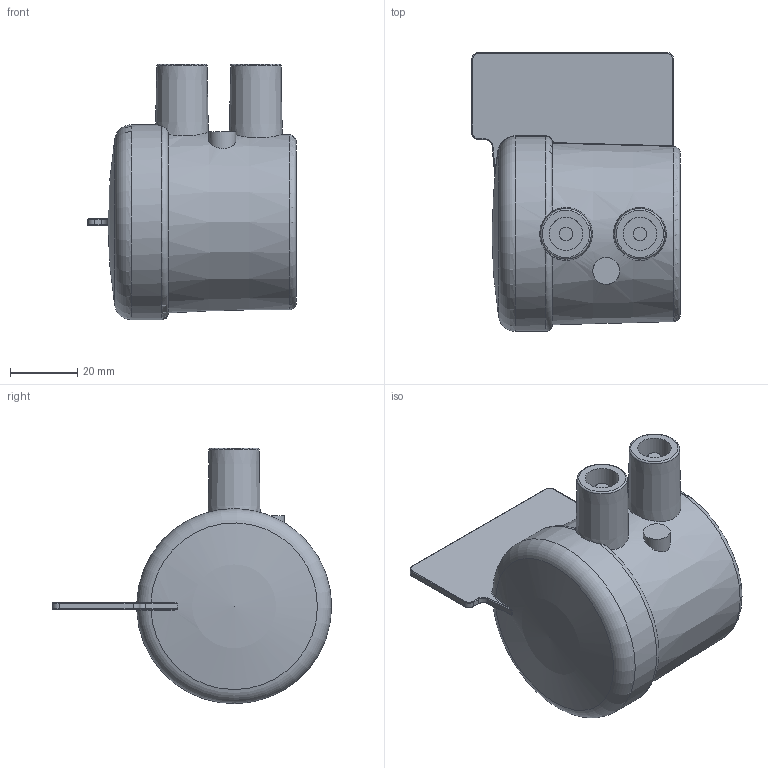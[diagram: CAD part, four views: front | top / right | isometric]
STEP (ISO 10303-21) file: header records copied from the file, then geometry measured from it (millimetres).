
FILE_DESCRIPTION(/* description */ ('Unknown'),/* implementation_level */ '2;1');
FILE_NAME(/* name */ 'CAEP040C',/* time_stamp */ '2021-02-11T10:12:24+01:00',/* author */ ('Unknown'),/* organization */ ('Unknown'),/* preprocessor_version */ 'ST-DEVELOPER v16.7',/* originating_system */ 'Solid Edge',/* authorisation */ 'Unknown');
FILE_SCHEMA (('AUTOMOTIVE_DESIGN {1 0 10303 214 3 1 1}'));
Length unit declared in the file: millimetre
Products named in the file (1): CAEP040C
Bounding box: 62 x 83.05 x 75.99 mm (x, y, z)
Volume: 79181.5 mm3; surface area: 25574 mm2
Topology: 1 solids, 1 shells, 78 faces, 181 edges, 110 vertices
Faces by surface type: cylinder 23, plane 19, torus 17, bspline 10, cone 8, sphere 1
Full cylindrical faces by diameter (mm): 4 x2, 8 x1, 10 x2, 40 x1
Entity records: 2323 total; most frequent: CARTESIAN_POINT 706, DIRECTION 331, ORIENTED_EDGE 314, EDGE_CURVE 157, AXIS2_PLACEMENT_3D 147, VERTEX_POINT 100, FACE_BOUND 97, EDGE_LOOP 96
